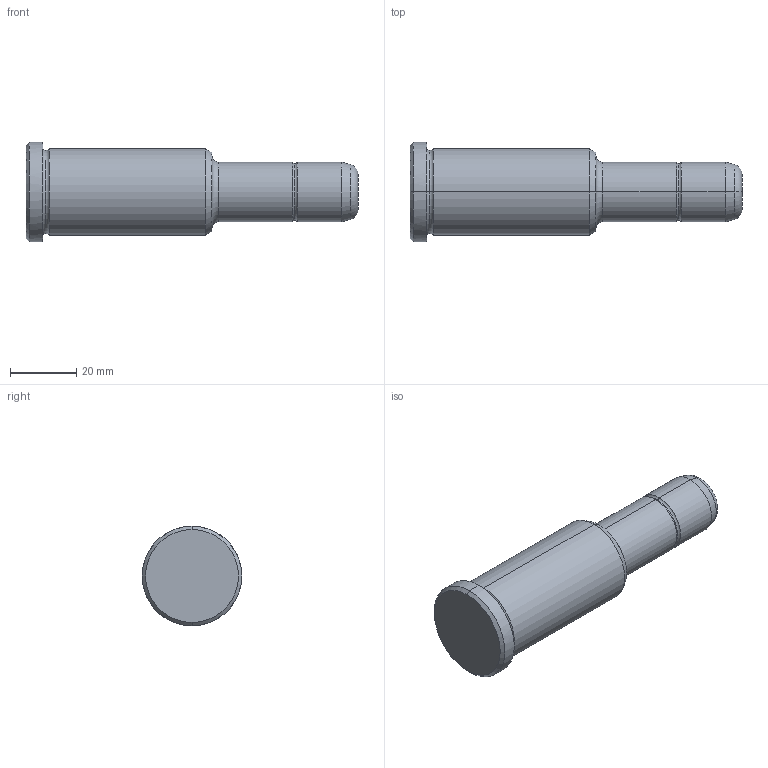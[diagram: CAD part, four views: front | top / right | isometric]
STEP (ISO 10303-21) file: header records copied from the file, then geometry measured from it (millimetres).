
FILE_DESCRIPTION(('CATIA V5 STEP Exchange'),'2;1');
FILE_NAME('C:\Users\Utente\Desktop\IO LAVORO\3D X SITO CF\X SITO\PLASTICA\351\351-18X56X100.stp','2021-08-18T13:01:44+00:00',('none'),('none'),'CATIA Version 5 Release 20 GA (IN-10)','CATIA V5 STEP AP203','none');
FILE_SCHEMA(('CONFIG_CONTROL_DESIGN'));
Length unit declared in the file: millimetre
Products named in the file (1): 351-18X56X100
Bounding box: 100 x 30 x 30 mm (x, y, z)
Volume: 41407.5 mm3; surface area: 8287.5 mm2
Topology: 1 solids, 1 shells, 30 faces, 86 edges, 60 vertices
Faces by surface type: torus 12, cylinder 8, cone 6, plane 4
Entity records: 1112 total; most frequent: CARTESIAN_POINT 289, ORIENTED_EDGE 172, DIRECTION 138, AXIS2_PLACEMENT_3D 95, EDGE_CURVE 86, CIRCLE 64, VERTEX_POINT 60, EDGE_LOOP 32
